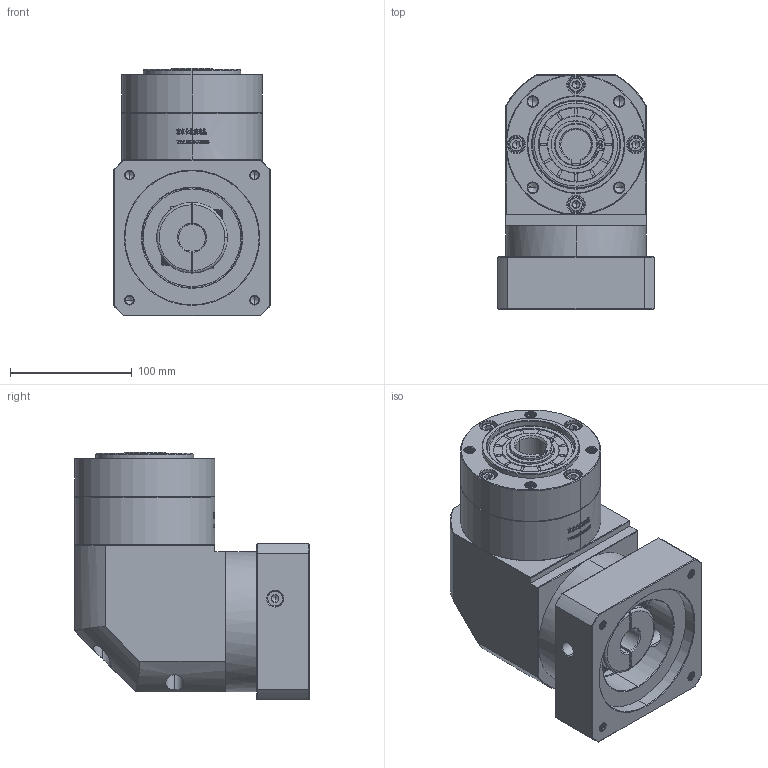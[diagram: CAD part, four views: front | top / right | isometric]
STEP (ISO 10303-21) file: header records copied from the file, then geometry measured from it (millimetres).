
FILE_DESCRIPTION (( 'STEP AP214' ), '1' );
FILE_NAME ('ZER120A-K25-L1-22-110-145-M8.step', '2023-03-14T08:26:25', ( '' ), ( '' ), 'SwSTEP 2.0', 'SolidWorks 2016', '' );
FILE_SCHEMA (( 'AUTOMOTIVE_DESIGN' ));
Length unit declared in the file: millimetre
Products named in the file (1): ZER120A-K25-L1-22-110-145-M8
Bounding box: 128 x 192.4 x 203 mm (x, y, z)
Volume: 2873690.3 mm3; surface area: 244361.6 mm2
Topology: 6 solids, 6 shells, 2899 faces, 7781 edges, 5026 vertices
Faces by surface type: plane 1456, bspline 610, cylinder 499, cone 326, torus 8
Entity records: 163922 total; most frequent: CARTESIAN_POINT 65915, ORIENTED_EDGE 15490, DIRECTION 11063, EDGE_CURVE 7745, VERTEX_POINT 5026, VECTOR 4749, LINE 4749, AXIS2_PLACEMENT_3D 3157
